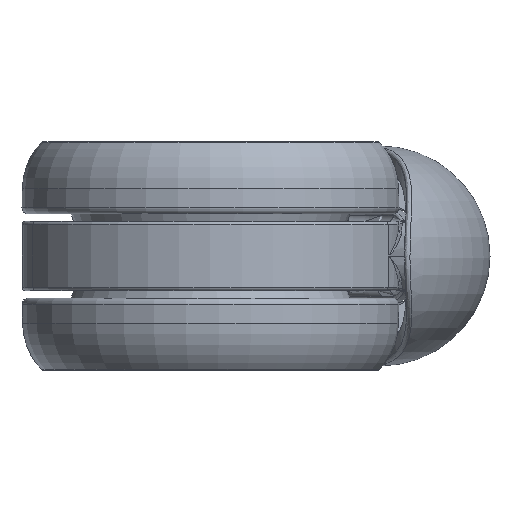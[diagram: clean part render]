
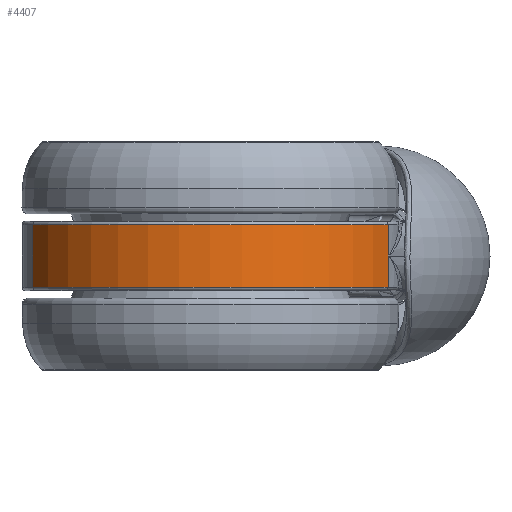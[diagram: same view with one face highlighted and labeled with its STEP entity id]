
A CAD part, front view. The second image highlights one B-rep face of the part: STEP entity #4407.
In plain terms, the highlighted cylindrical face has radius 30.924 mm (diameter 61.847 mm), a partial arc.
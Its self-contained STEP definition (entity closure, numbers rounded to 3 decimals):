
#462 = FACE_OUTER_BOUND ( 'NONE', #16631, .T. ) ;
#566 = DIRECTION ( 'NONE',  ( 0., 0., -1. ) ) ;
#983 = AXIS2_PLACEMENT_3D ( 'NONE', #20138, #10729, #14104 ) ;
#3825 = CARTESIAN_POINT ( 'NONE',  ( 0., 3.924, 12.5 ) ) ;
#4224 = ORIENTED_EDGE ( 'NONE', *, *, #22544, .T. ) ;
#4407 = ADVANCED_FACE ( 'NONE', ( #462 ), #13700, .T. ) ;
#4678 = CARTESIAN_POINT ( 'NONE',  ( -28.273, -8.602, -5. ) ) ;
#4775 = AXIS2_PLACEMENT_3D ( 'NONE', #3825, #16908, #24429 ) ;
#5230 = CARTESIAN_POINT ( 'NONE',  ( 28.273, -8.602, 5. ) ) ;
#6306 = ORIENTED_EDGE ( 'NONE', *, *, #7740, .T. ) ;
#6824 = ORIENTED_EDGE ( 'NONE', *, *, #12425, .T. ) ;
#7329 = VECTOR ( 'NONE', #566, 1000. ) ;
#7532 = CARTESIAN_POINT ( 'NONE',  ( 0., 3.924, 5. ) ) ;
#7740 = EDGE_CURVE ( 'NONE', #8051, #24062, #17074, .T. ) ;
#8051 = VERTEX_POINT ( 'NONE', #5230 ) ;
#9655 = CIRCLE ( 'NONE', #983, 30.924 ) ;
#10541 = ORIENTED_EDGE ( 'NONE', *, *, #21791, .T. ) ;
#10729 = DIRECTION ( 'NONE',  ( 0., 0., 1. ) ) ;
#12425 = EDGE_CURVE ( 'NONE', #18945, #8051, #24386, .T. ) ;
#12736 = AXIS2_PLACEMENT_3D ( 'NONE', #7532, #20763, #16561 ) ;
#13700 = CYLINDRICAL_SURFACE ( 'NONE', #4775, 30.924 ) ;
#14104 = DIRECTION ( 'NONE',  ( -1., 0., 0. ) ) ;
#15317 = CARTESIAN_POINT ( 'NONE',  ( -28.273, -8.602, 5. ) ) ;
#16561 = DIRECTION ( 'NONE',  ( 1., 0., 0. ) ) ;
#16631 = EDGE_LOOP ( 'NONE', ( #4224, #10541, #6824, #6306 ) ) ;
#16908 = DIRECTION ( 'NONE',  ( 0., 0., -1. ) ) ;
#17074 = CIRCLE ( 'NONE', #12736, 30.924 ) ;
#17507 = LINE ( 'NONE', #22930, #7329 ) ;
#18945 = VERTEX_POINT ( 'NONE', #21498 ) ;
#19845 = VECTOR ( 'NONE', #22414, 1000. ) ;
#20138 = CARTESIAN_POINT ( 'NONE',  ( 0., 3.924, -5. ) ) ;
#20763 = DIRECTION ( 'NONE',  ( 0., 0., -1. ) ) ;
#21498 = CARTESIAN_POINT ( 'NONE',  ( 28.273, -8.602, -5. ) ) ;
#21791 = EDGE_CURVE ( 'NONE', #24310, #18945, #9655, .T. ) ;
#22414 = DIRECTION ( 'NONE',  ( 0., 0., 1. ) ) ;
#22544 = EDGE_CURVE ( 'NONE', #24062, #24310, #17507, .T. ) ;
#22930 = CARTESIAN_POINT ( 'NONE',  ( -28.273, -8.602, 12.5 ) ) ;
#24022 = CARTESIAN_POINT ( 'NONE',  ( 28.273, -8.602, 12.5 ) ) ;
#24062 = VERTEX_POINT ( 'NONE', #15317 ) ;
#24310 = VERTEX_POINT ( 'NONE', #4678 ) ;
#24386 = LINE ( 'NONE', #24022, #19845 ) ;
#24429 = DIRECTION ( 'NONE',  ( -1., 0., 0. ) ) ;
